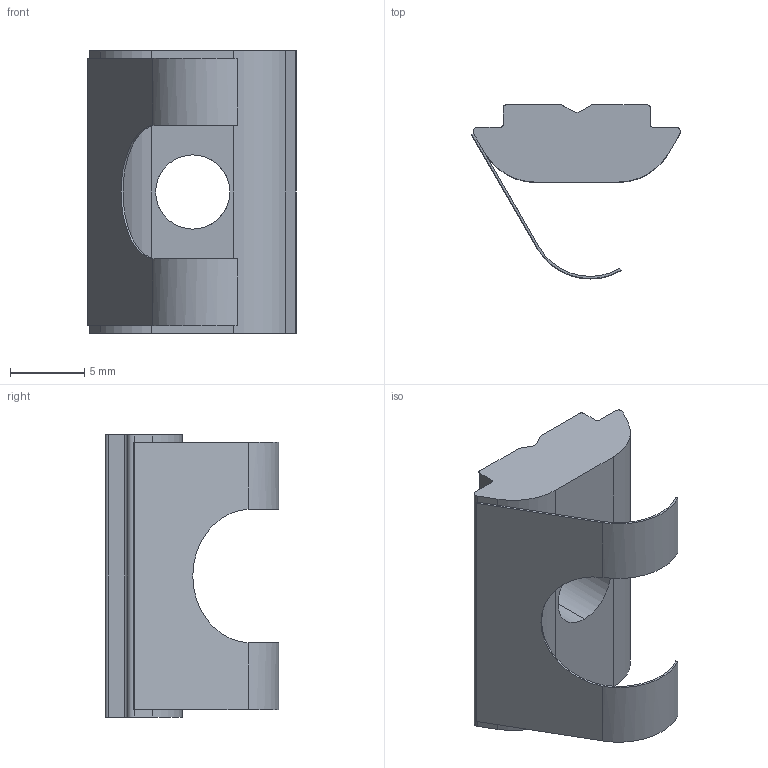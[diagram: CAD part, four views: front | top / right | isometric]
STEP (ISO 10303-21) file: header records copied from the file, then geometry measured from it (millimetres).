
FILE_DESCRIPTION (( 'STEP AP203' ), '1' );
FILE_NAME ('332040_Nutenstein Nut 10 M6 einschwenkbar mit Federblech.step', '2022-02-28T07:08:00', ( '' ), ( '' ), 'SwSTEP 2.0', 'SolidWorks 2021', '' );
FILE_SCHEMA (( 'CONFIG_CONTROL_DESIGN' ));
Length unit declared in the file: millimetre
Products named in the file (1): 332040_Nutenstein Nut 10 M6 einschwenkbar mit Federblech
Bounding box: 14.06 x 11.7 x 19 mm (x, y, z)
Volume: 1027.2 mm3; surface area: 1140.3 mm2
Topology: 1 solids, 1 shells, 45 faces, 128 edges, 84 vertices
Faces by surface type: plane 26, cylinder 19
Entity records: 1555 total; most frequent: CARTESIAN_POINT 294, ORIENTED_EDGE 256, DIRECTION 244, EDGE_CURVE 128, VERTEX_POINT 84, AXIS2_PLACEMENT_3D 82, VECTOR 80, LINE 80
